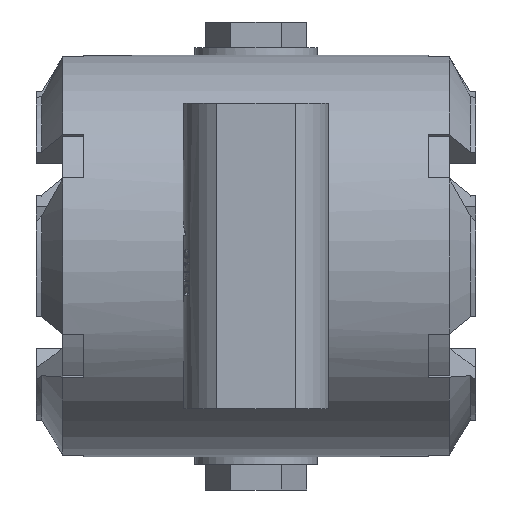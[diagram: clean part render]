
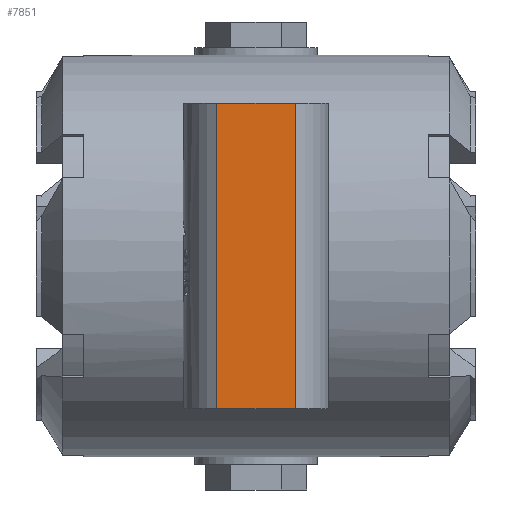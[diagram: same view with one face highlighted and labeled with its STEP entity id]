
A CAD part, front view. The second image highlights one B-rep face of the part: STEP entity #7851.
In plain terms, the highlighted planar face has unit normal (0, -1, 0).
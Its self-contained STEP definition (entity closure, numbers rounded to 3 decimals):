
#3072=LINE('',#45948,#6015);
#3111=LINE('',#46387,#6054);
#3113=LINE('',#46394,#6056);
#3117=LINE('',#46404,#6060);
#6015=VECTOR('',#33122,1.);
#6054=VECTOR('',#33251,1.);
#6056=VECTOR('',#33257,1.);
#6060=VECTOR('',#33267,1.);
#7851=ADVANCED_FACE('',(#9986),#8651,.T.);
#8651=PLANE('',#28342);
#9986=FACE_OUTER_BOUND('',#11527,.T.);
#11527=EDGE_LOOP('',(#18907,#18908,#18909,#18910));
#18907=ORIENTED_EDGE('',*,*,#25433,.T.);
#18908=ORIENTED_EDGE('',*,*,#25436,.F.);
#18909=ORIENTED_EDGE('',*,*,#25442,.F.);
#18910=ORIENTED_EDGE('',*,*,#25343,.F.);
#21615=VERTEX_POINT('',#45947);
#21616=VERTEX_POINT('',#45949);
#21682=VERTEX_POINT('',#46386);
#21685=VERTEX_POINT('',#46393);
#25343=EDGE_CURVE('',#21615,#21616,#3072,.T.);
#25433=EDGE_CURVE('',#21615,#21682,#3111,.T.);
#25436=EDGE_CURVE('',#21685,#21682,#3113,.T.);
#25442=EDGE_CURVE('',#21616,#21685,#3117,.T.);
#28342=AXIS2_PLACEMENT_3D('',#48720,#33332,#33333);
#33122=DIRECTION('',(0.,0.,1.));
#33251=DIRECTION('',(1.,0.,0.));
#33257=DIRECTION('',(0.,0.,-1.));
#33267=DIRECTION('',(1.,0.,0.));
#33332=DIRECTION('',(0.,-1.,0.));
#33333=DIRECTION('',(0.,0.,1.));
#45947=CARTESIAN_POINT('',(-10.283,-23.477,-40.));
#45948=CARTESIAN_POINT('',(-10.283,-23.477,-44.));
#45949=CARTESIAN_POINT('',(-10.283,-23.477,40.));
#46386=CARTESIAN_POINT('',(10.283,-23.477,-40.));
#46387=CARTESIAN_POINT('',(0.,-23.477,-40.));
#46393=CARTESIAN_POINT('',(10.283,-23.477,40.));
#46394=CARTESIAN_POINT('',(10.283,-23.477,-44.));
#46404=CARTESIAN_POINT('',(0.,-23.477,40.));
#48720=CARTESIAN_POINT('',(-22.5,-23.477,-103.));
